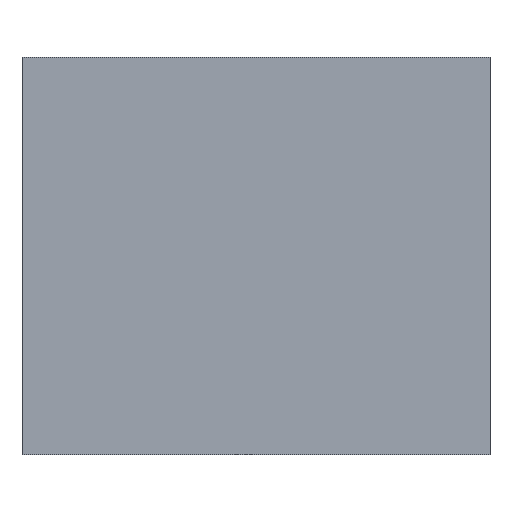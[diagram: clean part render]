
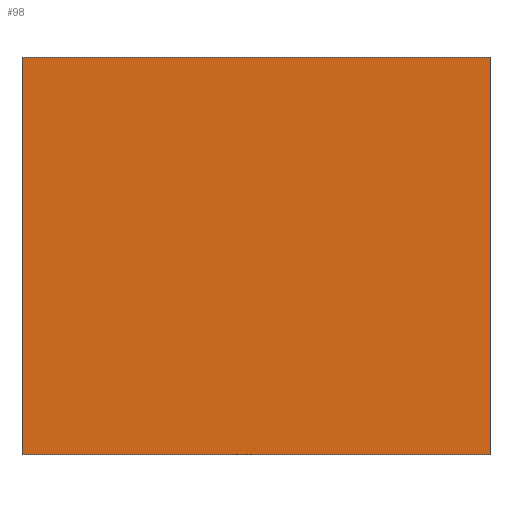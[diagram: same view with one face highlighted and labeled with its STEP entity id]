
A CAD part, left-side view. The second image highlights one B-rep face of the part: STEP entity #98.
In plain terms, the highlighted planar face has unit normal (-1, 0, 0).
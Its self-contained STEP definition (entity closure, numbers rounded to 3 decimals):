
#98=ADVANCED_FACE('',(#142),#144,.F.);
#142=FACE_BOUND('',#143,.T.);
#143=EDGE_LOOP('',(#169,#170,#171,#172));
#144=PLANE('',#145);
#145=AXIS2_PLACEMENT_3D('',#146,#147,#148);
#146=CARTESIAN_POINT('',(0.,0.,0.));
#147=DIRECTION('',(1.,0.,0.));
#148=DIRECTION('',(0.,1.,0.));
#169=ORIENTED_EDGE('',*,*,#183,.F.);
#170=ORIENTED_EDGE('',*,*,#180,.F.);
#171=ORIENTED_EDGE('',*,*,#177,.F.);
#172=ORIENTED_EDGE('',*,*,#173,.F.);
#173=EDGE_CURVE('',#185,#186,#187,.T.);
#177=EDGE_CURVE('',#186,#193,#194,.T.);
#180=EDGE_CURVE('',#193,#198,#199,.T.);
#183=EDGE_CURVE('',#198,#185,#203,.T.);
#185=VERTEX_POINT('',#205);
#186=VERTEX_POINT('',#206);
#187=LINE('',#207,#208);
#193=VERTEX_POINT('',#221);
#194=LINE('',#222,#223);
#198=VERTEX_POINT('',#232);
#199=LINE('',#233,#234);
#203=LINE('',#243,#244);
#205=CARTESIAN_POINT('',(0.,10.,-8.5));
#206=CARTESIAN_POINT('',(0.,10.,8.5));
#207=CARTESIAN_POINT('',(0.,10.,-8.5));
#208=VECTOR('',#209,1.);
#209=DIRECTION('',(0.,0.,1.));
#221=CARTESIAN_POINT('',(0.,-10.,8.5));
#222=CARTESIAN_POINT('',(0.,10.,8.5));
#223=VECTOR('',#224,1.);
#224=DIRECTION('',(0.,-1.,0.));
#232=CARTESIAN_POINT('',(0.,-10.,-8.5));
#233=CARTESIAN_POINT('',(0.,-10.,8.5));
#234=VECTOR('',#235,1.);
#235=DIRECTION('',(0.,0.,-1.));
#243=CARTESIAN_POINT('',(0.,-10.,-8.5));
#244=VECTOR('',#245,1.);
#245=DIRECTION('',(0.,1.,0.));
